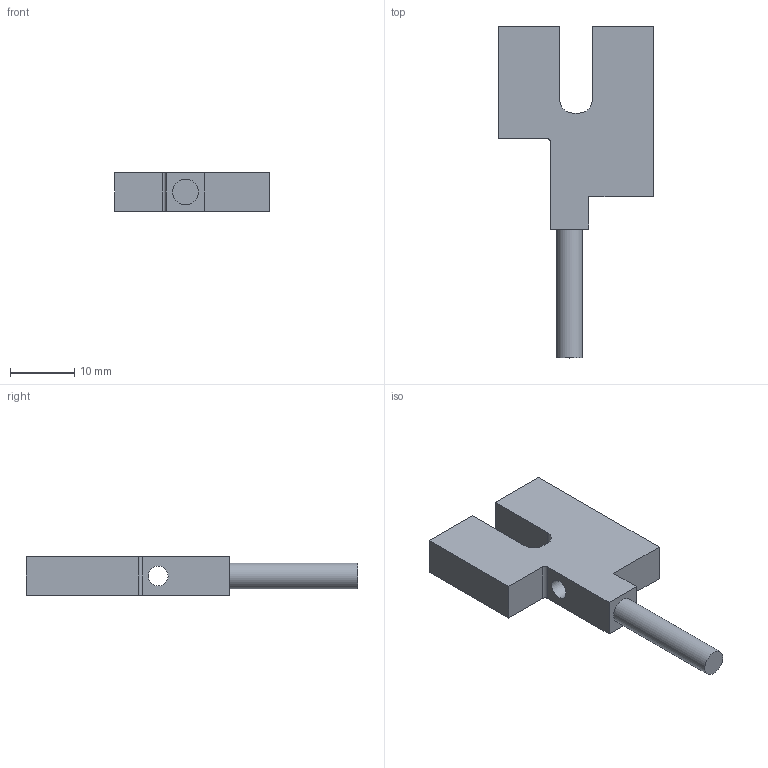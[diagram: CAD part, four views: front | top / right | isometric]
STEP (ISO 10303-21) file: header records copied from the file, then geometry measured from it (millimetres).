
FILE_DESCRIPTION(('FreeCAD Model'),'2;1');
FILE_NAME('Open CASCADE Shape Model','2024-07-22T12:04:34',( 'Thomas Reinhold'),('Eickmann Elektronik GmbH&.Co'), 'Open CASCADE STEP processor 7.6','FreeCAD','Unknown');
FILE_SCHEMA(('AUTOMOTIVE_DESIGN { 1 0 10303 214 1 1 1 1 }'));
Length unit declared in the file: millimetre
Products named in the file (1): Body
Bounding box: 24 x 51.5 x 6 mm (x, y, z)
Volume: 3300.2 mm3; surface area: 2265 mm2
Topology: 1 solids, 1 shells, 20 faces, 51 edges, 34 vertices
Faces by surface type: plane 15, cylinder 5
Full cylindrical faces by diameter (mm): 3.1 x1, 4 x1
Entity records: 631 total; most frequent: CARTESIAN_POINT 106, DIRECTION 103, ORIENTED_EDGE 102, EDGE_CURVE 51, LINE 41, VECTOR 41, VERTEX_POINT 34, AXIS2_PLACEMENT_3D 31
